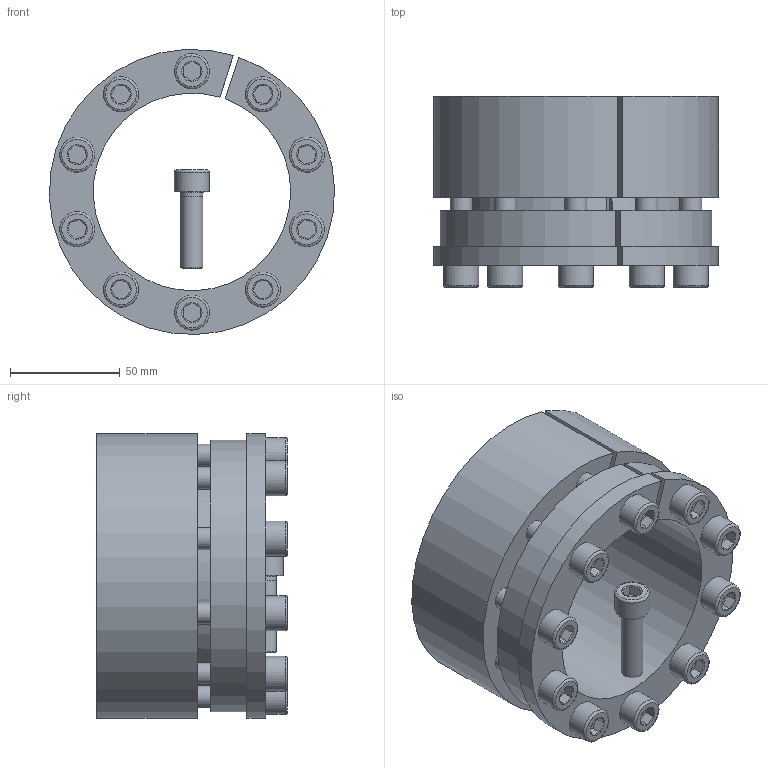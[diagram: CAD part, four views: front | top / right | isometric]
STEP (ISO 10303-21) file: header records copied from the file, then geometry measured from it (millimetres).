
FILE_DESCRIPTION( ( 'Unknown' ), '1' );
FILE_NAME( 'C:/Dokumente und Einstellungen/Sven/Desktop/homepage/cad - homepage/KBS70/KBS 70 - 90 x 130.stp', 'Unknown', ( 'Unknown' ), ( 'Unknown' ), 'XStep 1.0', 'Unknown', ' ' );
FILE_SCHEMA( ( 'automotive_design' ) );
Length unit declared in the file: millimetre
Products named in the file (3): Assem1; KBS 70 - 90 x 130; ISO EN DIN 4762 M10x35
Bounding box: 129.92 x 87 x 129.88 mm (x, y, z)
Volume: 886411 mm3; surface area: 221238.4 mm2
Topology: 13 solids, 13 shells, 343 faces, 703 edges, 430 vertices
Faces by surface type: plane 148, cylinder 92, cone 81, torus 22
Full cylindrical faces by diameter (mm): 9 x11, 10 x62, 16 x11
Entity records: 1990 total; most frequent: CARTESIAN_POINT 327, DIRECTION 312, ORIENTED_EDGE 222, AXIS2_PLACEMENT_3D 140, EDGE_LOOP 130, EDGE_CURVE 111, VERTEX_POINT 87, FACE_OUTER_BOUND 85
